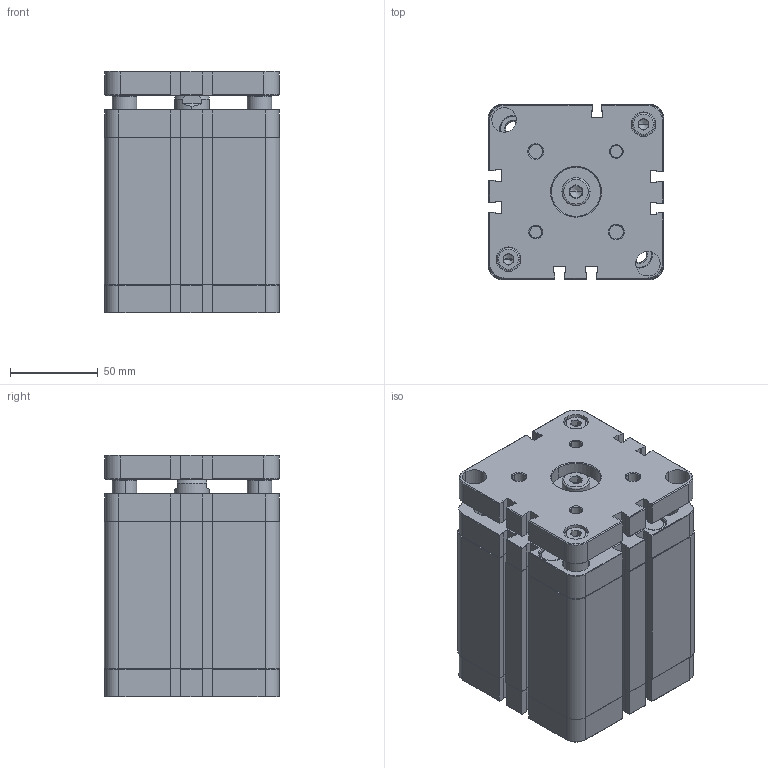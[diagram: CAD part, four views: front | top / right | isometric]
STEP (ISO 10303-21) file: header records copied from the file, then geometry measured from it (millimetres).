
FILE_DESCRIPTION (( 'STEP AP214' ), '1' );
FILE_NAME ('WACC-G-080-0060 (3D).STEP', '2020-10-26T06:00:53', ( '' ), ( '' ), 'SwSTEP 2.0', 'SolidWorks 2016', '' );
FILE_SCHEMA (( 'AUTOMOTIVE_DESIGN' ));
Length unit declared in the file: millimetre
Products named in the file (3): Group1^WACC-G-080-0060 (3D); WACC-G-080-0060 (3D); Group2^WACC-G-080-0060 (3D)
Assembly tree (2 placements, depth 2):
  WACC-G-080-0060 (3D)
    Group1^WACC-G-080-0060 (3D)
    Group2^WACC-G-080-0060 (3D)
Bounding box: 100 x 100 x 138 mm (x, y, z)
Volume: 888662.8 mm3; surface area: 230313.7 mm2
Topology: 18 solids, 18 shells, 1078 faces, 2680 edges, 1697 vertices
Faces by surface type: plane 618, cylinder 172, cone 140, bspline 104, torus 44
Entity records: 39987 total; most frequent: CARTESIAN_POINT 12182, ORIENTED_EDGE 5332, DIRECTION 5008, EDGE_CURVE 2666, LINE 1850, VECTOR 1850, VERTEX_POINT 1697, AXIS2_PLACEMENT_3D 1579
